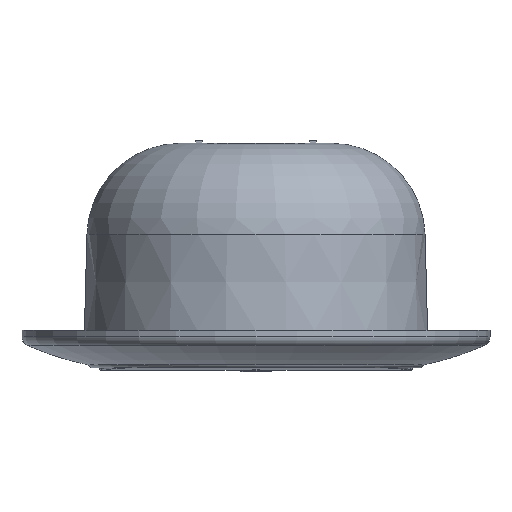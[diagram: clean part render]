
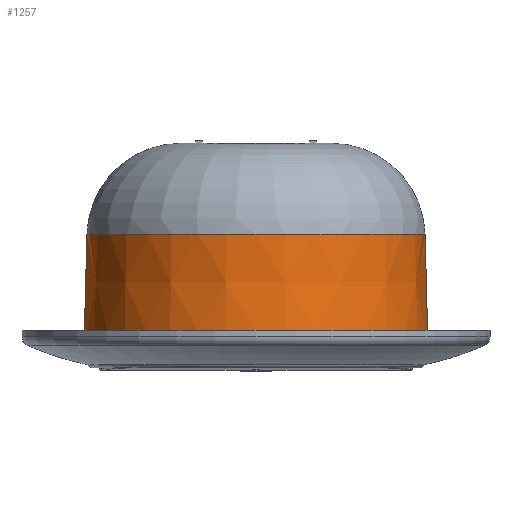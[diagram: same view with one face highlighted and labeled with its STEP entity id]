
A CAD part, front view. The second image highlights one B-rep face of the part: STEP entity #1257.
In plain terms, the highlighted conical face has half-angle 1.5 degrees and reference radius 27.5 mm.
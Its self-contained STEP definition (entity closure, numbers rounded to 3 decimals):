
#1249 = EDGE_CURVE ( 'NONE', #1250, #1251, #22326, .T. ) ;
#1250 = VERTEX_POINT ( 'NONE', #22346 ) ;
#1251 = VERTEX_POINT ( 'NONE', #22317 ) ;
#1257 = ADVANCED_FACE ( 'NONE', ( #22271 ), #22288, .T. ) ;
#1258 = EDGE_LOOP ( 'NONE', ( #1259, #1263, #1265, #1266 ) ) ;
#1259 = ORIENTED_EDGE ( 'NONE', *, *, #1260, .F. ) ;
#1260 = EDGE_CURVE ( 'NONE', #1261, #1262, #22278, .T. ) ;
#1261 = VERTEX_POINT ( 'NONE', #22355 ) ;
#1262 = VERTEX_POINT ( 'NONE', #22294 ) ;
#1263 = ORIENTED_EDGE ( 'NONE', *, *, #1264, .T. ) ;
#1264 = EDGE_CURVE ( 'NONE', #1261, #1250, #22324, .T. ) ;
#1265 = ORIENTED_EDGE ( 'NONE', *, *, #1249, .T. ) ;
#1266 = ORIENTED_EDGE ( 'NONE', *, *, #1267, .T. ) ;
#1267 = EDGE_CURVE ( 'NONE', #1251, #1262, #22273, .T. ) ;
#22270 = AXIS2_PLACEMENT_3D ( 'NONE', #22289, #22318, #22287 ) ;
#22271 = FACE_OUTER_BOUND ( 'NONE', #1258, .T. ) ;
#22273 = CIRCLE ( 'NONE', #22322, 27.5 ) ;
#22277 = CARTESIAN_POINT ( 'NONE',  ( 27.5, -7.75, 0. ) ) ;
#22278 = LINE ( 'NONE', #22277, #22357 ) ;
#22287 = DIRECTION ( 'NONE',  ( 1., 0., 0. ) ) ;
#22288 = CONICAL_SURFACE ( 'NONE', #22270, 27.5, 0.026 ) ;
#22289 = CARTESIAN_POINT ( 'NONE',  ( 0., -7.75, 0. ) ) ;
#22294 = CARTESIAN_POINT ( 'NONE',  ( 27.5, -7.75, 0. ) ) ;
#22317 = CARTESIAN_POINT ( 'NONE',  ( -27.5, -7.75, 0. ) ) ;
#22318 = DIRECTION ( 'NONE',  ( 0., 0., -1. ) ) ;
#22320 = DIRECTION ( 'NONE',  ( 1., 0., 0. ) ) ;
#22321 = DIRECTION ( 'NONE',  ( 0., 0., 1. ) ) ;
#22322 = AXIS2_PLACEMENT_3D ( 'NONE', #22325, #22321, #22320 ) ;
#22324 = CIRCLE ( 'NONE', #22330, 27.097 ) ;
#22325 = CARTESIAN_POINT ( 'NONE',  ( 0., -7.75, 0. ) ) ;
#22326 = LINE ( 'NONE', #22359, #22360 ) ;
#22327 = DIRECTION ( 'NONE',  ( 1., 0., 0. ) ) ;
#22328 = DIRECTION ( 'NONE',  ( 0., 0., -1. ) ) ;
#22329 = CARTESIAN_POINT ( 'NONE',  ( 0., -7.75, 15.393 ) ) ;
#22330 = AXIS2_PLACEMENT_3D ( 'NONE', #22329, #22328, #22327 ) ;
#22346 = CARTESIAN_POINT ( 'NONE',  ( -27.097, -7.75, 15.393 ) ) ;
#22355 = CARTESIAN_POINT ( 'NONE',  ( 27.097, -7.75, 15.393 ) ) ;
#22356 = DIRECTION ( 'NONE',  ( 0.026, 0., -1. ) ) ;
#22357 = VECTOR ( 'NONE', #22356, 1000. ) ;
#22358 = DIRECTION ( 'NONE',  ( -0.026, 0., -1. ) ) ;
#22359 = CARTESIAN_POINT ( 'NONE',  ( -27.5, -7.75, 0. ) ) ;
#22360 = VECTOR ( 'NONE', #22358, 1000. ) ;
